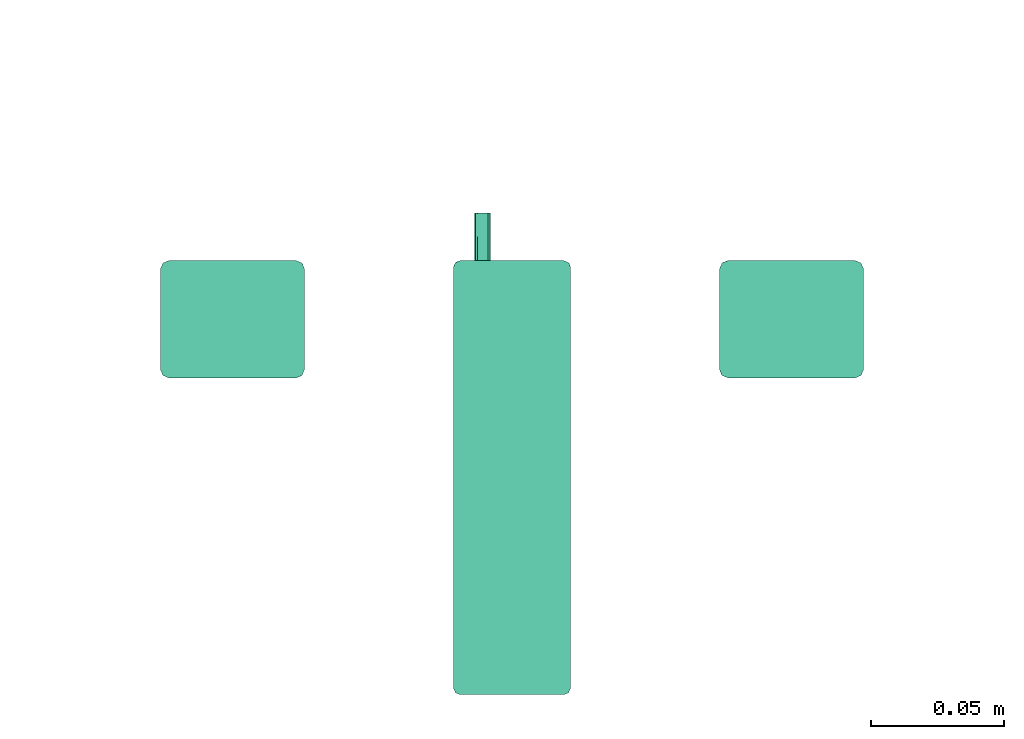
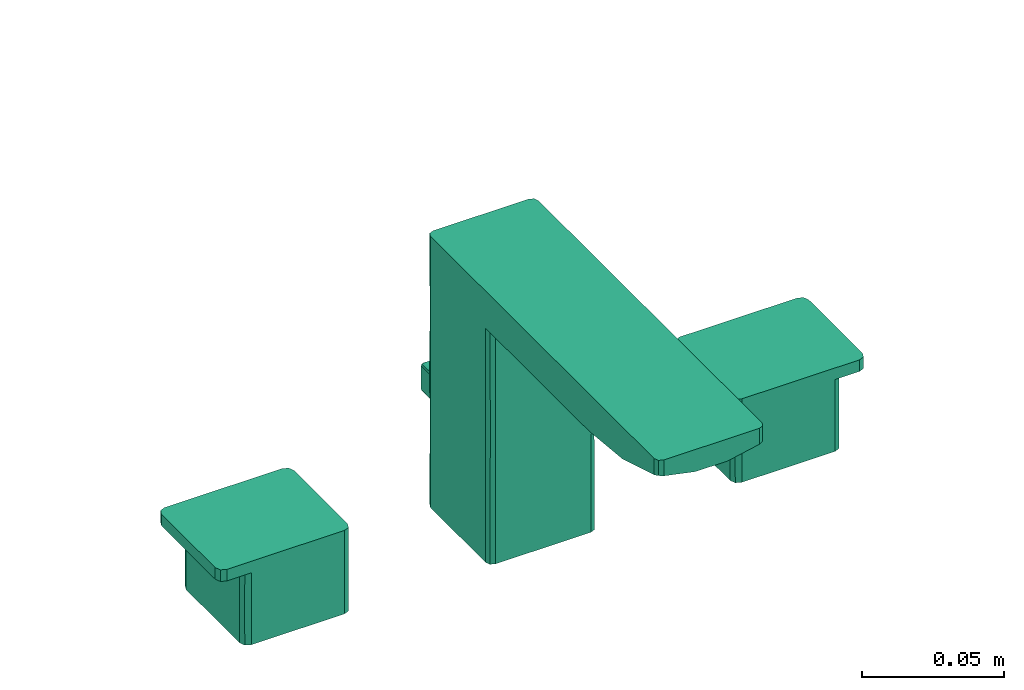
# One storey, part 2 of 2: 1 flow terminal.
"""IFC2X3 building model written with IfcOpenShell, lengths in millimetres."""

import ifcopenshell
import ifcopenshell.guid

model = None  # the IFC model being written
_history = None  # IfcOwnerHistory: only IFC2X3 demands one
_inside = {}  # id of a spatial element -> (the spatial element, [elements in it])
_under = {}  # id of a project, library or spatial element -> (it, [spatial elements below it])
_declared = {}  # id of a project -> (the project, [libraries it declares])
_typed = {}  # id of a type object -> (the type object, [elements of that type])
_made_of = {}  # id of a material, layer set ... -> (it, [elements and type objects made of it])


def new_model(schema):
    """Start an empty IFC model of exactly this schema.

    Asked for "IFC4X3", IfcOpenShell would pick the latest addendum, in which some entities
    have other attributes; the version numbers below select the first issue.
    IFC2X3 requires an IfcOwnerHistory on every rooted entity: one is made here for all.
    """
    global model, _history
    if schema == "IFC4X3":
        model = ifcopenshell.file(schema_version=(4, 3, 0, 0))
    else:
        model = ifcopenshell.file(schema=schema)
    _inside.clear()
    _under.clear()
    _declared.clear()
    _typed.clear()
    _made_of.clear()
    _history = None
    if model.schema == "IFC2X3":
        org = make("IfcOrganization", Name="unknown")
        user = make(
            "IfcPersonAndOrganization",
            ThePerson=make("IfcPerson", FamilyName="unknown"),
            TheOrganization=org,
        )
        app = make(
            "IfcApplication",
            ApplicationDeveloper=org,
            Version="unknown",
            ApplicationFullName="unknown",
            ApplicationIdentifier="unknown",
        )
        _history = make(
            "IfcOwnerHistory",
            OwningUser=user,
            OwningApplication=app,
            ChangeAction="ADDED",
            CreationDate=0,
        )
    return model


def make(cls, **values):
    """One entity of the class cls with the attributes given. An attribute that is None is left unset."""
    return model.create_entity(
        cls, **{name: value for name, value in values.items() if value is not None}
    )


def entity(cls, *values):
    """Any entity or typed value of the class cls, its attributes in the order of the schema. None: left unset."""
    e = model.create_entity(cls)
    for i, value in enumerate(values):
        if value is not None:
            e[i] = value
    return e


def rooted(cls, **values):
    """An entity with a GlobalId (a new one), such as an element, a storey or a relation."""
    return make(cls, GlobalId=ifcopenshell.guid.new(), OwnerHistory=_history, **values)


def si_unit(unit_type, name, prefix=None):
    """IfcSIUnit, for example si_unit("LENGTHUNIT", "METRE", prefix="MILLI")."""
    return make("IfcSIUnit", UnitType=unit_type, Prefix=prefix, Name=name)


def converted_unit(unit_type, name, factor, base, dimensions=None, offset=None):
    """IfcConversionBasedUnit, such as the inch: factor (a typed value) times the base unit."""
    return make(
        "IfcConversionBasedUnit"
        if offset is None
        else "IfcConversionBasedUnitWithOffset",
        ConversionOffset=offset,
        Dimensions=None
        if dimensions is None
        else entity("IfcDimensionalExponents", *dimensions),
        UnitType=unit_type,
        Name=name,
        ConversionFactor=make(
            "IfcMeasureWithUnit", ValueComponent=factor, UnitComponent=base
        ),
    )


def derived_unit(unit_type, elements):
    """IfcDerivedUnit: a product of units, each with its exponent."""
    return make(
        "IfcDerivedUnit",
        Elements=[
            make("IfcDerivedUnitElement", Unit=unit, Exponent=power)
            for unit, power in elements
        ],
        UnitType=unit_type,
    )


def assignment(units):
    """IfcUnitAssignment: the units of a project."""
    return None if units is None else make("IfcUnitAssignment", Units=units)


def point(xyz):
    """IfcCartesianPoint."""
    return None if xyz is None else make("IfcCartesianPoint", Coordinates=xyz)


def direction(xyz):
    """IfcDirection."""
    return None if xyz is None else make("IfcDirection", DirectionRatios=xyz)


def frame(location, z_axis=None, x_axis=None):
    """IfcAxis2Placement3D, a coordinate frame: its origin and axes. An axis left out is left unset."""
    return make(
        "IfcAxis2Placement3D",
        Location=point(location),
        Axis=direction(z_axis),
        RefDirection=direction(x_axis),
    )


def origin():
    """The frame at (0, 0, 0) with its axes left unset."""
    return frame((0.0, 0.0, 0.0))


def place(relative_to, where):
    """IfcLocalPlacement: puts the frame where relative to a parent placement (None: the world)."""
    return make(
        "IfcLocalPlacement", PlacementRelTo=relative_to, RelativePlacement=where
    )


def context(
    kind, dimensions, precision=None, world=None, true_north=None, identifier=None
):
    """IfcGeometricRepresentationContext, for example the 3D "Model" context."""
    return make(
        "IfcGeometricRepresentationContext",
        ContextIdentifier=identifier,
        ContextType=kind,
        CoordinateSpaceDimension=dimensions,
        Precision=precision,
        WorldCoordinateSystem=world,
        TrueNorth=true_north,
    )


def subcontext(parent, identifier, kind, view, scale=None):
    """IfcGeometricRepresentationSubContext, for example "Body" below "Model"."""
    return make(
        "IfcGeometricRepresentationSubContext",
        ContextIdentifier=identifier,
        ContextType=kind,
        ParentContext=parent,
        TargetScale=scale,
        TargetView=view,
    )


def project(units=None, contexts=None):
    """IfcProject with its units and contexts."""
    return rooted(
        "IfcProject",
        Name="project",
        RepresentationContexts=contexts,
        UnitsInContext=assignment(units),
    )


def spatial(cls, under=None, at=None, **own):
    """A site, building, storey or space (cls), placed at a placement, below another one or the project."""
    s = rooted(cls, ObjectPlacement=at, **own)
    if under is not None:
        _under.setdefault(under.id(), (under, []))[1].append(s)
    return s


def faces_of(points, faces, orient=None, outer=None):
    """IfcFace entities. A face is a list of loops; a loop is a list of indices into points, from 0.

    orient and outer hold one flag for each loop. By default every Orientation is true, the
    first loop of a face is its IfcFaceOuterBound and the others are IfcFaceBound.
    """
    made = []
    for i, loops in enumerate(faces):
        bounds = []
        for j, loop in enumerate(loops):
            is_outer = j == 0 if outer is None else outer[i][j]
            bounds.append(
                make(
                    "IfcFaceOuterBound" if is_outer else "IfcFaceBound",
                    Bound=make("IfcPolyLoop", Polygon=[points[k] for k in loop]),
                    Orientation=True if orient is None else orient[i][j],
                )
            )
        made.append(make("IfcFace", Bounds=bounds))
    return made


def faceted_brep(points, faces, orient=None, outer=None, voids=None):
    """IfcFacetedBrep: a solid bounded by flat faces; with voids (closed shells), ...WithVoids."""
    shared = [point(p) for p in points]
    hull = make("IfcClosedShell", CfsFaces=faces_of(shared, faces, orient, outer))
    if voids is None:
        return make("IfcFacetedBrep", Outer=hull)
    return make(
        "IfcFacetedBrepWithVoids",
        Outer=hull,
        Voids=[
            make(cls, CfsFaces=faces_of(shared, fs, o, b)) for cls, fs, o, b in voids
        ],
    )


def shape(context_of_items, identifier, shape_type, items):
    """IfcShapeRepresentation: the items that make up one representation, for example the "Body"."""
    return make(
        "IfcShapeRepresentation",
        ContextOfItems=context_of_items,
        RepresentationIdentifier=identifier,
        RepresentationType=shape_type,
        Items=items,
    )


def source(mapping_origin, context_of_items, identifier, shape_type, items):
    """IfcRepresentationMap: a shape defined once, which mapped items show again and again."""
    return make(
        "IfcRepresentationMap",
        MappingOrigin=mapping_origin,
        MappedRepresentation=shape(context_of_items, identifier, shape_type, items),
    )


def transform(
    local_origin,
    x_axis=None,
    y_axis=None,
    z_axis=None,
    scale=None,
    scale2=None,
    scale3=None,
    uniform=True,
):
    """IfcCartesianTransformationOperator3D, or its non-uniform kind. x_axis, y_axis, z_axis: its Axis1, 2, 3."""
    if uniform:
        return make(
            "IfcCartesianTransformationOperator3D",
            Axis1=direction(x_axis),
            Axis2=direction(y_axis),
            LocalOrigin=point(local_origin),
            Scale=scale,
            Axis3=direction(z_axis),
        )
    return make(
        "IfcCartesianTransformationOperator3DnonUniform",
        Axis1=direction(x_axis),
        Axis2=direction(y_axis),
        LocalOrigin=point(local_origin),
        Scale=scale,
        Axis3=direction(z_axis),
        Scale2=scale2,
        Scale3=scale3,
    )


def mapped(mapping_source, mapping_target):
    """IfcMappedItem: shows the shape of a source again, moved by a transform."""
    return make(
        "IfcMappedItem", MappingSource=mapping_source, MappingTarget=mapping_target
    )


def material(Name=None, Category=None):
    """IfcMaterial."""
    return make("IfcMaterial", Name=Name, Category=Category)


def made_of(thing, what):
    """Note that an element or type object is made of a material, layer set ...; save() writes the relation."""
    if what is not None:
        _made_of.setdefault(what.id(), (what, []))[1].append(thing)
    return thing


def type_object(cls, material=None, **own):
    """A type object (cls), such as IfcWallType, which elements share."""
    return made_of(rooted(cls, **own), material)


def type_shapes(of_type, sources):
    """Give a type object the sources (RepresentationMaps) that its elements show as mapped items."""
    of_type.RepresentationMaps = sources


def element(
    cls,
    number,
    at=None,
    inside=None,
    cuts=None,
    type_object=None,
    material=None,
    context=None,
    identifier="Body",
    shape_type=None,
    held_by="IfcProductDefinitionShape",
    body=None,
    shapes=None,
    **own,
):
    """One element of the class cls, such as IfcWall. Its Tag is "e" and its number.

    at: its placement. inside: the storey or other place that contains it. cuts: it is an
    opening in that element (IfcRelVoidsElement). A single representation is given by context,
    identifier, shape_type and body (its items); several are given by shapes. held_by: the class
    of the entity that holds the representations. save() writes the other relations.
    """
    e = rooted(cls, Tag="e%d" % number, ObjectPlacement=at, **own)
    if body is not None:
        shapes = [shape(context, identifier, shape_type, body)]
    if shapes is not None:
        e.Representation = make(held_by, Representations=shapes)
    if inside is not None:
        _inside.setdefault(inside.id(), (inside, []))[1].append(e)
    if cuts is not None:
        rooted(
            "IfcRelVoidsElement", RelatingBuildingElement=cuts, RelatedOpeningElement=e
        )
    if type_object is not None:
        _typed.setdefault(type_object.id(), (type_object, []))[1].append(e)
    return made_of(e, material)


def aggregate(whole, parts):
    """IfcRelAggregates: a whole, such as a stair, and the parts it consists of."""
    return rooted("IfcRelAggregates", RelatingObject=whole, RelatedObjects=parts)


def save(model, path):
    """Write the relations noted so far, then the file.

    IfcRelAggregates (storeys below a building ...), IfcRelContainedInSpatialStructure (elements
    in a storey), IfcRelDefinesByType, IfcRelAssociatesMaterial and IfcRelDeclares: one each for
    every whole, place, type object, material and project.
    """
    for whole, parts in _under.values():
        aggregate(whole, parts)
    for where, things in _inside.values():
        rooted(
            "IfcRelContainedInSpatialStructure",
            RelatedElements=things,
            RelatingStructure=where,
        )
    for kind, things in _typed.values():
        rooted("IfcRelDefinesByType", RelatedObjects=things, RelatingType=kind)
    for what, things in _made_of.values():
        rooted("IfcRelAssociatesMaterial", RelatedObjects=things, RelatingMaterial=what)
    for by, libraries in _declared.values():
        rooted("IfcRelDeclares", RelatingContext=by, RelatedDefinitions=libraries)
    model.write(path)


model = new_model("IFC2X3")

# Units and contexts
model_context = context("Model", 3, precision=0.01, world=origin(), true_north=direction((6.12303176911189e-17, 1.0)))
body_context = subcontext(model_context, "Body", "Model", "MODEL_VIEW")
ifc_project = project(units=[si_unit("LENGTHUNIT", "METRE", prefix="MILLI"), si_unit("AREAUNIT", "SQUARE_METRE"), si_unit("VOLUMEUNIT", "CUBIC_METRE"), converted_unit("PLANEANGLEUNIT", "DEGREE", entity("IfcRatioMeasure", 0.0174532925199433), si_unit("PLANEANGLEUNIT", "RADIAN"), dimensions=[0, 0, 0, 0, 0, 0, 0]), si_unit("MASSUNIT", "GRAM", prefix="KILO"), derived_unit("MASSDENSITYUNIT", [(si_unit("MASSUNIT", "GRAM", prefix="KILO"), 1), (si_unit("LENGTHUNIT", "METRE"), -3)]), derived_unit("MOMENTOFINERTIAUNIT", [(si_unit("LENGTHUNIT", "METRE"), 4)]), si_unit("TIMEUNIT", "SECOND"), si_unit("FREQUENCYUNIT", "HERTZ"), si_unit("THERMODYNAMICTEMPERATUREUNIT", "DEGREE_CELSIUS"), derived_unit("THERMALTRANSMITTANCEUNIT", [(si_unit("MASSUNIT", "GRAM", prefix="KILO"), 1), (si_unit("THERMODYNAMICTEMPERATUREUNIT", "KELVIN"), -1), (si_unit("TIMEUNIT", "SECOND"), -3)]), derived_unit("VOLUMETRICFLOWRATEUNIT", [(si_unit("LENGTHUNIT", "METRE"), 3), (si_unit("TIMEUNIT", "SECOND"), -1)]), si_unit("ELECTRICCURRENTUNIT", "AMPERE"), si_unit("ELECTRICVOLTAGEUNIT", "VOLT"), si_unit("POWERUNIT", "WATT"), si_unit("FORCEUNIT", "NEWTON", prefix="KILO"), si_unit("ILLUMINANCEUNIT", "LUX"), si_unit("LUMINOUSFLUXUNIT", "LUMEN"), si_unit("LUMINOUSINTENSITYUNIT", "CANDELA"), derived_unit("USERDEFINED", [(si_unit("MASSUNIT", "GRAM", prefix="KILO"), -1), (si_unit("LENGTHUNIT", "METRE"), -2), (si_unit("TIMEUNIT", "SECOND"), 3), (si_unit("LUMINOUSFLUXUNIT", "LUMEN"), 1)]), derived_unit("LINEARVELOCITYUNIT", [(si_unit("LENGTHUNIT", "METRE"), 1), (si_unit("TIMEUNIT", "SECOND"), -1)]), si_unit("PRESSUREUNIT", "PASCAL"), derived_unit("USERDEFINED", [(si_unit("LENGTHUNIT", "METRE"), -2), (si_unit("MASSUNIT", "GRAM", prefix="KILO"), 1), (si_unit("TIMEUNIT", "SECOND"), -2)]), derived_unit("LINEARFORCEUNIT", [(si_unit("MASSUNIT", "GRAM", prefix="KILO"), 1), (si_unit("LENGTHUNIT", "METRE"), 1), (si_unit("TIMEUNIT", "SECOND"), -2), (si_unit("LENGTHUNIT", "METRE"), -1)]), derived_unit("PLANARFORCEUNIT", [(si_unit("MASSUNIT", "GRAM", prefix="KILO"), 1), (si_unit("LENGTHUNIT", "METRE"), 1), (si_unit("TIMEUNIT", "SECOND"), -2), (si_unit("LENGTHUNIT", "METRE"), -2)])], contexts=[model_context])

# Site, building, storey
site_placement = place(None, origin())
site = spatial("IfcSite", under=ifc_project, at=site_placement, Name="Default", CompositionType="ELEMENT")
building_placement = place(site_placement, origin())
building = spatial("IfcBuilding", under=site, at=building_placement, CompositionType="ELEMENT")
storey_placement = place(building_placement, origin())
storey = spatial("IfcBuildingStorey", under=building, at=storey_placement, Name="Level 1", CompositionType="ELEMENT", Elevation=0.0)

# Flow terminal
ifc_material = material(Name="Brushed Hard Graphite")
distribution_element_type = type_object("IfcDistributionElementType", Name="FFAS1303-101AL0BT0_REVIT:Acacia E 8 inch basin mixer", material=ifc_material)
shared_shape = source(origin(), body_context, "Body", "Brep", [
    faceted_brep([(132.0, 19.0, 36.0), (131.12132034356, 21.1213203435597, 36.0), (129.0, 22.0, 36.0), (81.0, 22.0, 36.0), (78.8786796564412, 21.1213203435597, 36.0), (78.0, 19.0, 36.0), (78.0, -19.0, 36.0), (78.8786796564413, -21.1213203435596, 36.0), (81.0, -22.0, 36.0), (129.0, -22.0, 36.0), (131.121320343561, -21.1213203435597, 36.0), (132.0, -19.0, 36.0), (121.121320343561, 21.1213203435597, 31.0), (119.0, 22.0, 31.0), (129.0, 22.0, 31.0), (131.12132034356, 21.1213203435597, 31.0), (132.0, 19.0, 31.0), (132.0, -19.0, 31.0), (131.121320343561, -21.1213203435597, 31.0), (129.0, -22.0, 31.0), (119.0, -22.0, 31.0), (121.121320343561, -21.1213203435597, 31.0), (122.0, -19.0, 31.0), (122.0, 19.0, 31.0), (81.0, -22.0, 31.0), (81.0, -22.0, 15.1195253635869), (81.0, -22.0, 0.0), (119.0, -22.0, 0.0), (119.0, -22.0, 15.8804752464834), (78.0, -19.0, 31.0), (78.8786796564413, -21.1213203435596, 31.0), (78.8786796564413, -21.1213203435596, 0.0), (78.0, 19.0, 31.0), (78.0, 19.0, 15.1195246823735), (78.0, 19.0, 0.0), (78.0, -19.0, 0.0), (78.0, -19.0, 15.8804749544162), (81.0, 22.0, 31.0), (78.8786796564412, 21.1213203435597, 31.0), (78.8786796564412, 21.1213203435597, 0.0), (119.0, 22.0, 15.119525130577), (119.0, 22.0, 0.0), (81.0, 22.0, 0.0), (81.0, 22.0, 15.8804763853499), (121.121320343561, 21.1213203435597, 0.0), (122.0, 19.0, 0.0), (122.0, -19.0, 0.0), (121.121320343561, -21.1213203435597, 0.0), (121.23919697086, 20.9964961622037, 15.5000001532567), (122.0, 19.0, 15.8804749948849), (122.0, -19.0, 15.1195257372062), (120.99649614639, -21.2391969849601, 15.5000004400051), (78.7608030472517, -20.9964961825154, 15.5000013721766), (79.0035038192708, 21.2391969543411, 15.5000000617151)], [[[0, 1, 2, 3, 4, 5, 6, 7, 8, 9, 10, 11]], [[12, 13, 14, 15, 16, 17, 18, 19, 20, 21, 22, 23]], [[0, 16, 15, 1]], [[15, 14, 2, 1]], [[0, 11, 17, 16]], [[9, 19, 18, 10]], [[18, 17, 11, 10]], [[19, 9, 8, 24, 25, 26, 27, 28, 20]], [[6, 29, 30, 7]], [[30, 25, 24, 8, 7]], [[31, 26, 25]], [[6, 5, 32, 33, 34, 35, 36, 29]], [[3, 37, 38, 4]], [[38, 33, 32, 5, 4]], [[39, 34, 33]], [[37, 3, 2, 14, 13, 40, 41, 42, 43]], [[26, 31, 35, 34, 39, 42, 41, 44, 45, 46, 47, 27]], [[48, 45, 44]], [[40, 13, 12]], [[44, 41, 40]], [[48, 12, 23]], [[40, 12, 48]], [[40, 48, 44]], [[45, 48, 23, 49]], [[23, 22, 50, 46, 45, 49]], [[51, 27, 47]], [[50, 22, 21]], [[47, 46, 50]], [[51, 21, 20]], [[50, 21, 51]], [[50, 51, 47]], [[27, 51, 20, 28]], [[52, 35, 31]], [[52, 25, 30]], [[52, 30, 29]], [[29, 36, 35, 52]], [[25, 52, 31]], [[53, 42, 39]], [[53, 38, 37]], [[33, 38, 53]], [[33, 53, 39]], [[42, 53, 37, 43]]]),
    faceted_brep([(-81.0, -22.0, 36.0), (-78.8786796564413, -21.1213203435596, 36.0), (-78.0, -19.0, 36.0), (-78.0, 19.0, 36.0), (-78.8786796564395, 21.121320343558, 36.0), (-81.0, 22.0, 36.0), (-129.0, 22.0, 36.0), (-131.12132034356, 21.1213203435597, 36.0), (-132.0, 19.0, 36.0), (-132.0, -19.0, 36.0), (-131.121320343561, -21.1213203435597, 36.0), (-129.0, -22.0, 36.0), (-121.121320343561, 21.1213203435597, 31.0), (-122.0, 19.0, 31.0), (-122.0, -19.0, 31.0), (-121.121320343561, -21.1213203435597, 31.0), (-119.0, -22.0, 31.0), (-129.0, -22.0, 31.0), (-131.121320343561, -21.1213203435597, 31.0), (-132.0, -19.0, 31.0), (-132.0, 19.0, 31.0), (-131.12132034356, 21.1213203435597, 31.0), (-129.0, 22.0, 31.0), (-119.0, 22.0, 31.0), (-81.0, -22.0, 31.0), (-119.0, -22.0, 15.1195251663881), (-119.0, -22.0, 0.0), (-81.0, -22.0, 0.0), (-81.0, -22.0, 15.8804755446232), (-78.8786796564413, -21.1213203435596, 31.0), (-78.0, -19.0, 15.119525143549), (-78.0, -19.0, 31.0), (-78.8786796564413, -21.1213203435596, 0.0), (-78.0, -19.0, 0.0), (-78.0, 19.0, 0.0), (-78.0, 19.0, 15.8804763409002), (-78.0, 19.0, 31.0), (-78.8786796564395, 21.121320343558, 31.0), (-81.0, 22.0, 15.119523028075), (-81.0, 22.0, 31.0), (-78.8786796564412, 21.1213203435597, 0.0), (-81.0, 22.0, 0.0), (-119.0, 22.0, 0.0), (-119.0, 22.0, 15.88047503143), (-122.0, 19.0, 0.0), (-121.121320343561, 21.1213203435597, 0.0), (-121.121320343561, -21.1213203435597, 0.0), (-122.0, -19.0, 0.0), (-120.99649614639, 21.2391969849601, 15.5000004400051), (-122.0, 19.0, 15.1195257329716), (-122.0, -19.0, 15.8804760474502), (-121.23919697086, -20.9964961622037, 15.5000001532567), (-79.0035038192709, -21.239196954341, 15.5000000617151), (-78.7608030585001, 20.9964961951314, 15.5000000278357)], [[[0, 1, 2, 3, 4, 5, 6, 7, 8, 9, 10, 11]], [[12, 13, 14, 15, 16, 17, 18, 19, 20, 21, 22, 23]], [[6, 22, 21, 7]], [[21, 20, 8, 7]], [[9, 8, 20, 19]], [[9, 19, 18, 10]], [[18, 17, 11, 10]], [[24, 0, 11, 17, 16, 25, 26, 27, 28]], [[0, 24, 29, 1]], [[29, 30, 31, 2, 1]], [[32, 33, 30]], [[3, 2, 31, 30, 33, 34, 35, 36]], [[3, 36, 37, 4]], [[37, 38, 39, 5, 4]], [[40, 41, 38]], [[22, 6, 5, 39, 38, 41, 42, 43, 23]], [[44, 45, 42, 41, 40, 34, 33, 32, 27, 26, 46, 47]], [[48, 42, 45]], [[49, 13, 12]], [[45, 44, 49]], [[48, 12, 23]], [[49, 12, 48]], [[49, 48, 45]], [[42, 48, 23, 43]], [[14, 13, 49, 44, 47, 50]], [[51, 47, 46]], [[25, 16, 15]], [[46, 26, 25]], [[51, 15, 14]], [[25, 15, 51]], [[25, 51, 46]], [[47, 51, 14, 50]], [[52, 27, 32]], [[52, 29, 24]], [[30, 29, 52]], [[30, 52, 32]], [[27, 52, 24, 28]], [[53, 34, 40]], [[53, 37, 36]], [[38, 37, 53]], [[38, 53, 40]], [[34, 53, 36, 35]]]),
    faceted_brep([(22.0, -56.0170889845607, 100.969886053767), (6.57743038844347, -22.0, 97.7325805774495), (22.0, -37.7585444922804, 100.969886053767), (22.0, -28.6292722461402, 100.969886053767), (19.4999999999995, -22.0, 100.193790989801), (22.0, -24.0646694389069, 100.969886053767), (-22.0, -37.7585511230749, 100.969886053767), (-6.57743038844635, -22.0, 97.7325805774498), (-22.0, -56.0171022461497, 100.969886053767), (-22.0, -19.5, 100.969886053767), (-21.2484251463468, -21.2868994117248, 100.725767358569), (-22.0, -24.0646553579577, 100.969886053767), (-7.4456517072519, -93.0, 97.8199871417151), (-22.0, -93.0, 100.969886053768), (7.44565170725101, -93.0, 97.819987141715), (21.2484251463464, -21.2868994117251, 100.725767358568), (22.0, -19.5, 100.969886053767), (-19.5000000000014, -22.0, 100.193790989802), (-22.0, -28.6292755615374, 100.969886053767), (22.0, -93.0, 100.969886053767), (-6.47882311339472, -113.079653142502, 99.3673565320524), (-4.81029550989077, -111.138851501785, 98.9267760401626), (-2.55892680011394, -109.873421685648, 98.6258842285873), (-7.36672940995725, -115.470295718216, 99.8753888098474), (0.0, -109.434845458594, 98.5190886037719), (-7.36512310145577, -118.019452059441, 100.37527439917), (-22.0, -116.185414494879, 103.227202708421), (-19.5000000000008, -141.0, 110.123879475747), (2.55892680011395, -109.873421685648, 98.6258842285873), (7.36672940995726, -115.470295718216, 99.8753888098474), (4.81029550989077, -111.138851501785, 98.9267760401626), (6.47882311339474, -113.079653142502, 99.3673565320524), (22.0, -116.185414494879, 103.227202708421), (7.36512310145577, -118.019452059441, 100.37527439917), (-6.58448876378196, -141.0, 107.448279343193), (-6.47602573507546, -120.423192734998, 100.80759398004), (-4.80620418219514, -122.38903581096, 101.133432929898), (-2.55821636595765, -123.674545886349, 101.33323303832), (0.0, -124.122017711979, 101.400347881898), (-21.2806853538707, -140.254753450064, 110.394002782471), (-22.0, -138.500000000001, 109.914369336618), (6.60304870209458, -141.0, 107.450185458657), (2.55821636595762, -123.674545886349, 101.33323303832), (4.80620418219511, -122.38903581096, 101.133432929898), (19.5, -141.0, 110.123879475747), (6.47602573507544, -120.423192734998, 100.80759398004), (22.0, -138.5, 109.914369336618), (21.2816508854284, -140.253773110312, 110.393919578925), (-19.5, 22.0, 117.0), (-21.2677669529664, 21.2677669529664, 117.0), (-22.0, 19.5, 117.0), (-22.0, -138.5, 117.0), (-21.2677669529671, -140.267766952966, 117.0), (-19.5000000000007, -141.0, 117.0), (19.5, -141.0, 117.0), (21.2677669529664, -140.267766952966, 117.0), (22.0, -138.5, 117.0), (22.0, 19.5, 117.0), (21.2677669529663, 21.2677669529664, 117.0), (19.5, 22.0, 117.0), (-22.0, 19.5, 103.197825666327), (-22.0, 19.5, 89.3956513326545), (-22.0, 19.5, 73.9478255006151), (-22.0, 19.5, 58.4999996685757), (-22.0, 19.5, 43.8749995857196), (-22.0, 19.5, 29.2499995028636), (-22.0, 19.5, 13.8021743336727), (-22.0, 19.5, 0.0), (-22.0, -19.5, 0.0), (-22.0, -19.5, 13.8021739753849), (-22.0, -19.5, 27.6043479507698), (-22.0, -19.5, 45.7611892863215), (-22.0, -19.5, 59.5633632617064), (-22.0, -19.5, 73.3655372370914), (-22.0, -19.5, 87.1677120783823), (22.0, -19.5, 87.1677125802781), (22.0, -19.5, 73.3655376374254), (22.0, -19.5, 50.4849430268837), (22.0, -19.5, 27.604348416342), (22.0, -19.5, 13.8021734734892), (22.0, -19.5, 0.0), (22.0, 19.5, 0.0), (22.0, 19.5, 13.8021741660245), (22.0, 19.5, 30.895651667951), (22.0, 19.5, 46.3434775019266), (22.0, 19.5, 61.7913033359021), (22.0, 19.5, 75.5934775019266), (22.0, 19.5, 89.395651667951), (22.0, 19.5, 103.197825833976), (0.0, -117.0, 99.0), (0.0, -124.287744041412, 100.682508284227), (-6.47738647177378, -120.643872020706, 99.8412541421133), (-6.47738647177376, -113.356127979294, 98.1587458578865), (0.0, -109.712255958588, 97.317491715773), (6.47738647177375, -120.643872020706, 99.8412541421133), (6.47738647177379, -113.356127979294, 98.1587458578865), (-21.2677669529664, 21.2677669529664, 0.0), (-19.5, 22.0, 0.0), (19.5, 22.0, 0.0), (21.2677669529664, 21.2677669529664, 0.0), (21.2677669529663, -21.2677669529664, 0.0), (19.5, -22.0, 0.0), (-19.5, -22.0, 0.0), (-21.2677669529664, -21.2677669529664, 0.0), (-9.0, 22.0, 46.8505411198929), (-8.29289321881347, 22.0, 46.5576479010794), (-8.0, 22.0, 45.8505411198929), (19.5, 22.0, 103.197824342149), (19.5, 22.0, 89.395650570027), (19.5, 22.0, 73.9478252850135), (19.5, 22.0, 58.5), (19.5, 22.0, 43.0521728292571), (19.5, 22.0, 27.6043475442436), (19.5, 22.0, 13.8021737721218), (-8.0, 22.0, 35.8465560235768), (-8.29172601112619, 22.0, 35.142267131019), (-8.99601490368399, 22.0, 34.8505411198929), (-13.0, 22.0, 34.8505411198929), (-13.7071067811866, 22.0, 35.1434343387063), (-14.0, 22.0, 35.8505411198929), (-14.0, 22.0, 45.8505411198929), (-19.5, 22.0, 13.8021741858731), (-19.5, 22.0, 27.6043483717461), (-19.5, 22.0, 44.6978260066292), (-19.5, 22.0, 61.7913036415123), (-19.5, 22.0, 75.5934778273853), (-19.5, 22.0, 89.3956516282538), (-19.5, 22.0, 103.197825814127), (-13.0, 22.0, 46.8505411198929), (-13.7071067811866, 22.0, 46.5576479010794), (-21.1491506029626, 21.3789098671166, 35.95377157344), (-21.2878467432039, 21.2474564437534, 51.1875017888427), (-21.267766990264, 21.2677669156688, 96.2967390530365), (-21.1891869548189, 21.342999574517, 80.2715023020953), (-21.2677669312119, 21.2677669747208, 20.7032627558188), (-21.3900509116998, 21.1363702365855, 65.7820222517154), (-19.5, -22.0, 37.5726711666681), (-19.5, -22.0, 50.0968954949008), (-21.2035188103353, -21.3297605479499, 43.8347843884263), (-19.5, -22.0, 86.3916169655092), (-21.2496983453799, -21.2856527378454, 79.4905298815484), (-21.1111906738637, -21.4115607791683, 59.2962705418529), (-21.3181364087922, -21.2159195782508, 20.7032620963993), (-19.5, -22.0, 25.0484474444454), (-19.5, -22.0, 72.5894429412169), (19.4999999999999, -22.0, 13.8021748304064), (19.4999999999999, -22.0, 27.6043485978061), (19.4999999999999, -22.0, 41.4065223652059), (19.4999999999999, -22.0, 55.2086961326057), (19.4999999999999, -22.0, 77.7012435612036), (21.3392271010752, -21.193293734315, 80.2666249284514), (21.2677669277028, -21.2677669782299, 20.7032614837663), (21.2677669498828, -21.2677669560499, 38.2956879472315), (21.3124262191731, -21.2219498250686, 63.5864980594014), (21.0726440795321, -21.4433966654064, 50.9788316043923), (21.2677669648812, 21.2677669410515, 20.7032612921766), (21.4514945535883, 21.0625840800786, 67.1667484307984), (21.3374665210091, 21.1952040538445, 54.0673916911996), (21.3374665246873, 21.1952040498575, 38.6195656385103), (21.2677669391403, 21.2677669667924, 96.2967389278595), (21.3429996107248, 21.189186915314, 80.2715018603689), (-14.0, 40.0, 45.8505411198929), (-13.7071067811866, 40.0, 46.5576479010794), (-13.0, 40.0, 46.8505411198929), (-9.0, 40.0, 46.8505411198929), (-8.29289321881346, 40.0, 46.5576479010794), (-8.0, 40.0, 45.8505411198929), (-8.0, 40.0, 35.8465560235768), (-8.29172601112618, 40.0, 35.142267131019), (-8.99601490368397, 40.0, 34.8505411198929), (-13.0, 40.0, 34.8505411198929), (-13.7071067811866, 40.0, 35.1434343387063), (-14.0, 40.0, 35.8505411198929), (-9.0, 31.0000012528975, 46.8505411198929), (-13.0, 30.7292615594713, 46.8505411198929), (-13.6358121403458, 34.0934950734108, 46.6223849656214), (-13.7135042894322, 28.1948547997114, 46.5511919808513), (-14.0, 31.0, 45.8505411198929), (-14.0, 30.7292612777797, 35.8505411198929), (-13.7718438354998, 34.0934950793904, 35.21472896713), (-13.7006508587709, 28.1948547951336, 35.1370368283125), (-13.0, 31.000000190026, 34.8505411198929), (-8.99601490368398, 30.7118504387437, 34.8505411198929), (-8.36053476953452, 34.0850865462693, 35.0796070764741), (-8.28487225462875, 28.1783466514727, 35.1491882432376), (-8.0, 31.0, 35.8465560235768), (-8.0, 30.729261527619, 45.8505411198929), (-8.22815617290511, 34.0934950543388, 46.4863532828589), (-8.29934914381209, 28.1948547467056, 46.5640454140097)], [[[0, 1, 2]], [[3, 2, 4, 5]], [[6, 7, 8]], [[9, 10, 11]], [[12, 13, 8]], [[8, 7, 12]], [[12, 7, 1, 14]], [[15, 16, 5]], [[17, 11, 10]], [[6, 18, 11, 17]], [[19, 14, 0]], [[6, 17, 7]], [[0, 14, 1]], [[1, 4, 2]], [[4, 15, 5]], [[20, 12, 21]], [[12, 22, 21]], [[23, 13, 12]], [[24, 22, 12]], [[25, 26, 23]], [[12, 20, 23]], [[25, 27, 26]], [[26, 13, 23]], [[14, 28, 24]], [[14, 19, 29]], [[30, 28, 14]], [[12, 14, 24]], [[31, 14, 29]], [[29, 19, 32]], [[29, 32, 33]], [[30, 14, 31]], [[34, 35, 36]], [[34, 37, 38]], [[37, 34, 36]], [[27, 39, 40]], [[27, 35, 34]], [[27, 25, 35]], [[27, 40, 26]], [[41, 34, 38]], [[41, 42, 43]], [[44, 45, 33]], [[45, 41, 43]], [[44, 32, 46]], [[44, 46, 47]], [[41, 45, 44]], [[41, 38, 42]], [[33, 32, 44]], [[48, 49, 50, 51, 52, 53, 54, 55, 56, 57, 58, 59]], [[51, 50, 60, 61, 62, 63, 64, 65, 66, 67, 68, 69, 70, 71, 72, 73, 74, 9, 11, 18, 6, 8, 13, 26, 40]], [[51, 40, 39]], [[51, 39, 52]], [[39, 53, 52]], [[53, 39, 27]], [[54, 53, 27, 34, 41, 44]], [[55, 54, 47]], [[47, 54, 44]], [[47, 46, 56]], [[47, 56, 55]], [[56, 46, 32, 19, 0, 2, 3, 5, 16, 75, 76, 77, 78, 79, 80, 81, 82, 83, 84, 85, 86, 87, 88, 57]], [[89, 90, 91]], [[91, 92, 89]], [[92, 93, 89]], [[89, 94, 90]], [[93, 95, 89]], [[94, 89, 95]], [[22, 93, 92]], [[23, 92, 25]], [[20, 92, 23]], [[24, 93, 22]], [[21, 22, 92]], [[20, 21, 92]], [[37, 91, 90]], [[37, 90, 38]], [[25, 91, 35]], [[37, 36, 91]], [[91, 36, 35]], [[91, 25, 92]], [[42, 38, 90]], [[42, 90, 94]], [[43, 42, 94]], [[45, 43, 94]], [[94, 33, 45]], [[94, 95, 33]], [[31, 29, 95]], [[95, 29, 33]], [[28, 95, 93]], [[31, 95, 30]], [[30, 95, 28]], [[93, 24, 28]], [[67, 96, 97, 98, 99, 81, 80, 100, 101, 102, 103, 68]], [[59, 104, 48]], [[104, 59, 105]], [[106, 105, 59]], [[106, 59, 107]], [[106, 107, 108]], [[106, 108, 109]], [[106, 109, 110]], [[106, 110, 111]], [[106, 111, 112]], [[106, 112, 113]], [[106, 113, 98]], [[114, 106, 98]], [[115, 114, 98]], [[98, 116, 115]], [[116, 98, 97]], [[97, 117, 116]], [[117, 97, 118]], [[119, 118, 97]], [[119, 97, 120]], [[120, 97, 121]], [[120, 121, 122]], [[120, 122, 123]], [[120, 123, 124]], [[120, 124, 125]], [[120, 125, 126]], [[120, 126, 127]], [[120, 127, 48]], [[128, 48, 104]], [[48, 128, 129]], [[129, 120, 48]], [[130, 64, 131]], [[130, 65, 64]], [[49, 132, 60]], [[131, 124, 123]], [[61, 132, 133]], [[134, 130, 122]], [[60, 50, 49]], [[96, 67, 66]], [[96, 134, 121]], [[134, 96, 66]], [[133, 126, 125]], [[133, 132, 126]], [[63, 131, 64]], [[49, 127, 132]], [[61, 60, 132]], [[61, 133, 62]], [[135, 131, 63]], [[121, 134, 122]], [[121, 97, 96]], [[127, 49, 48]], [[65, 134, 66]], [[62, 133, 135]], [[123, 122, 130]], [[135, 125, 124]], [[135, 124, 131]], [[65, 130, 134]], [[123, 130, 131]], [[62, 135, 63]], [[133, 125, 135]], [[127, 126, 132]], [[136, 137, 138]], [[139, 17, 10]], [[10, 140, 139]], [[141, 73, 72, 71]], [[142, 102, 143, 136]], [[73, 141, 140]], [[69, 68, 103]], [[136, 138, 142]], [[103, 102, 142]], [[10, 74, 140]], [[144, 139, 140]], [[70, 69, 142]], [[103, 142, 69]], [[141, 71, 138]], [[70, 142, 138]], [[138, 137, 141]], [[70, 138, 71]], [[137, 144, 141]], [[140, 141, 144]], [[74, 10, 9]], [[74, 73, 140]], [[1, 7, 17, 139, 144, 137, 136, 143, 102, 101, 145, 146, 147, 148, 149, 4]], [[15, 4, 150]], [[79, 78, 151]], [[150, 4, 149]], [[151, 78, 152]], [[76, 150, 153]], [[154, 147, 152]], [[15, 150, 75]], [[145, 101, 100]], [[147, 146, 152]], [[151, 145, 100]], [[146, 151, 152]], [[149, 153, 150]], [[100, 80, 79]], [[78, 77, 152]], [[100, 79, 151]], [[77, 153, 154]], [[75, 150, 76]], [[75, 16, 15]], [[153, 149, 148]], [[154, 153, 148]], [[77, 76, 153]], [[151, 146, 145]], [[147, 154, 148]], [[77, 154, 152]], [[112, 155, 99, 113]], [[156, 157, 110]], [[111, 110, 157, 158, 112]], [[85, 157, 156]], [[157, 85, 84, 83, 158]], [[107, 59, 58]], [[99, 98, 113]], [[108, 159, 160]], [[99, 82, 81]], [[88, 58, 57]], [[58, 159, 107]], [[58, 88, 159]], [[160, 159, 87]], [[108, 107, 159]], [[108, 160, 109]], [[160, 156, 109]], [[83, 82, 99, 155]], [[160, 87, 86]], [[155, 112, 158]], [[155, 158, 83]], [[110, 109, 156]], [[88, 87, 159]], [[156, 86, 85]], [[86, 156, 160]], [[161, 162, 163, 164, 165, 166, 167, 168, 169, 170, 171, 172]], [[128, 104, 173, 164, 163, 174]], [[175, 163, 162]], [[175, 162, 161]], [[120, 129, 176]], [[177, 175, 161]], [[176, 175, 177]], [[120, 176, 177]], [[175, 176, 174]], [[176, 129, 128]], [[163, 175, 174]], [[128, 174, 176]], [[120, 177, 161, 172, 178, 119]], [[179, 172, 171]], [[179, 171, 170]], [[117, 118, 180]], [[181, 179, 170]], [[180, 179, 181]], [[117, 180, 181]], [[179, 180, 178]], [[180, 118, 119]], [[172, 179, 178]], [[119, 178, 180]], [[117, 181, 170, 169, 182, 116]], [[183, 169, 168]], [[183, 168, 167]], [[114, 115, 184]], [[185, 183, 167]], [[184, 183, 185]], [[114, 184, 185]], [[183, 184, 182]], [[184, 115, 116]], [[169, 183, 182]], [[116, 182, 184]], [[114, 185, 167, 166, 186, 106]], [[187, 166, 165]], [[187, 165, 164]], [[104, 105, 188]], [[173, 187, 164]], [[188, 187, 173]], [[104, 188, 173]], [[187, 188, 186]], [[188, 105, 106]], [[166, 187, 186]], [[106, 186, 188]]]),
])
type_shapes(distribution_element_type, [shared_shape])
flow_terminal_placement = place(storey_placement, frame((792.20706844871, -6365.16617023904, 0.0)))
element("IfcFlowTerminal", 1, at=flow_terminal_placement, inside=storey, type_object=distribution_element_type, material=ifc_material, Name="FFAS1303-101AL0BT0_REVIT:Acacia E 8 inch basin mixer", ObjectType="FFAS1303-101AL0BT0_REVIT:Acacia E 8 inch basin mixer", context=body_context, shape_type="MappedRepresentation", body=[
    mapped(shared_shape, transform((0.0, 0.0, 0.0), scale=1.0)),
])

save(model, "model.ifc")
